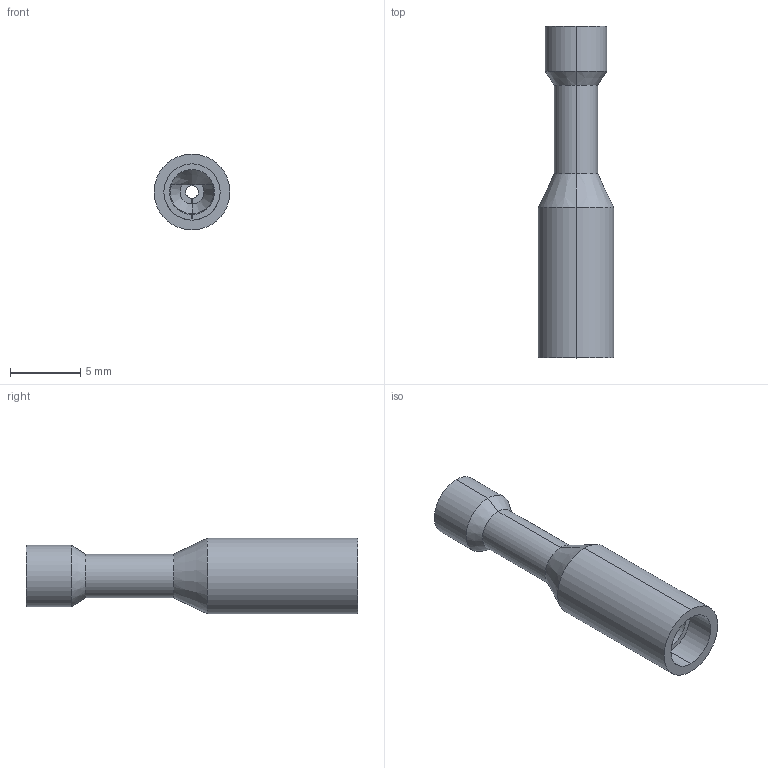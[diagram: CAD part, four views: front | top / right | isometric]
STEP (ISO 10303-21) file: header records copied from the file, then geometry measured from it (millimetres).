
FILE_DESCRIPTION (( 'STEP AP214' ), '1' );
FILE_NAME ('278077 OptiKit S-Shm-PVC-1,25-5-4.STEP', '2020-02-19T11:20:14', ( '' ), ( '' ), 'SwSTEP 2.0', 'SolidWorks 2018', '' );
FILE_SCHEMA (( 'AUTOMOTIVE_DESIGN' ));
Length unit declared in the file: millimetre
Products named in the file (3): 朽琥屐 续褥 1,25-5-4; Îïëåòêà 1; 278077 OptiKit S-Shm-PVC-1,25-5-4
Assembly tree (2 placements, depth 2):
  278077 OptiKit S-Shm-PVC-1,25-5-4
    Îïëåòêà 1
    朽琥屐 续褥 1,25-5-4
Bounding box: 5.4 x 23.6 x 5.4 mm (x, y, z)
Volume: 248.2 mm3; surface area: 859 mm2
Topology: 2 solids, 2 shells, 38 faces, 82 edges, 48 vertices
Faces by surface type: cylinder 16, plane 12, cone 10
Entity records: 1165 total; most frequent: CARTESIAN_POINT 210, DIRECTION 201, ORIENTED_EDGE 164, EDGE_CURVE 82, AXIS2_PLACEMENT_3D 81, VERTEX_POINT 48, EDGE_LOOP 40, VECTOR 39
